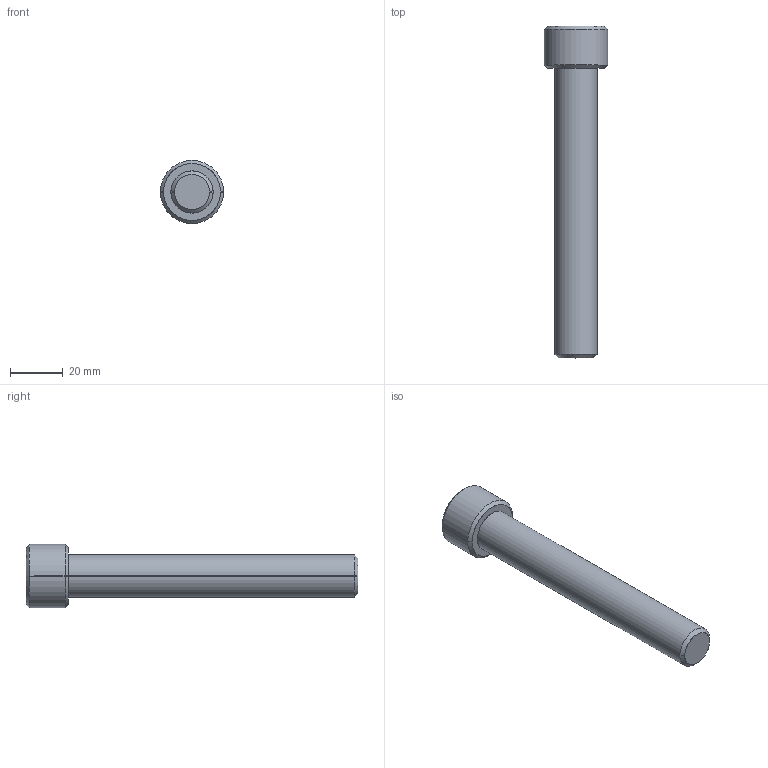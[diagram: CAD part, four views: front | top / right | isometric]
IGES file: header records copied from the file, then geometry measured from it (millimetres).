
Start section: SolidWorks IGES file using analytic representation for surfaces
Global section: file name: D:\Cleonir_arquivos\MT_15_07\Parafuso Allen Cabeça Cilindrica\CLM16110.igs; native system: SolidWorks 2013; preprocessor: SolidWorks 2013; author: Cleonir; date: 130730.130226; units: millimetre
Bounding box: 24 x 126 x 24 mm (x, y, z)
Surface area: 8055.3 mm2 (no closed solid volume)
Topology: 0 solids, 0 shells, 270 faces, 2269 edges, 2269 vertices
Faces by surface type: bspline 252, revolution 18
